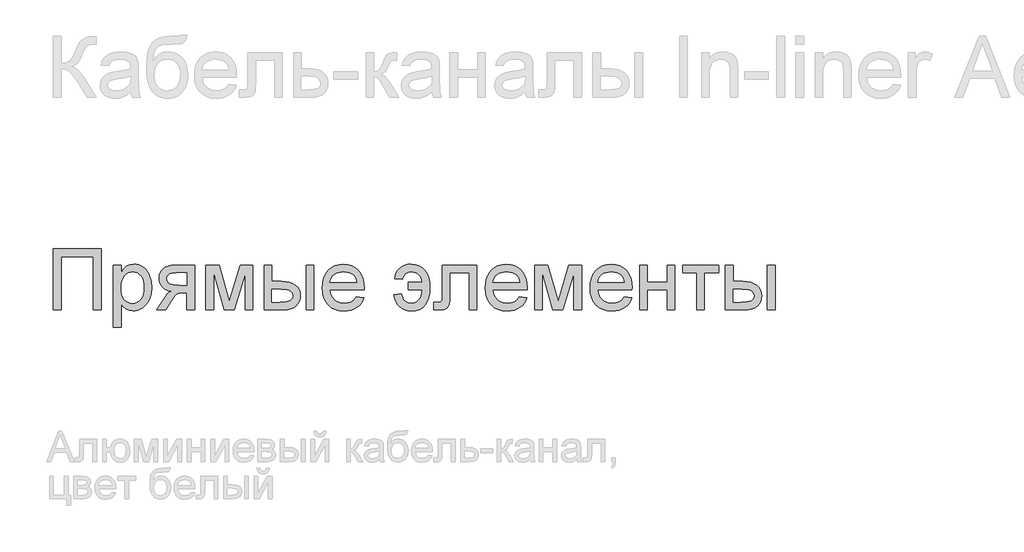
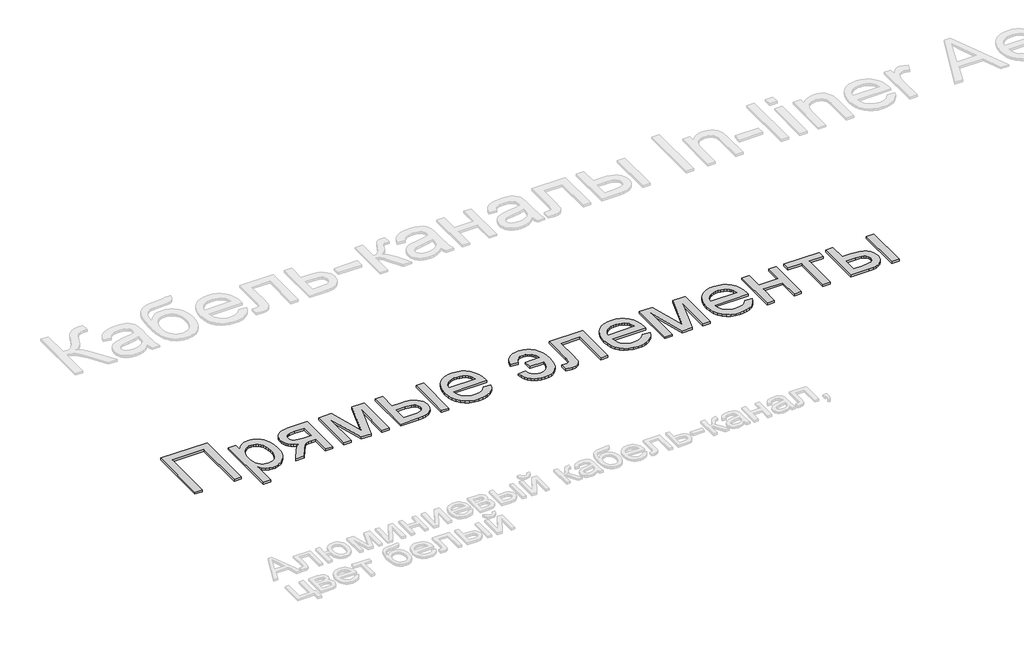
# One storey, part 90 of 168: 1 proxy.
"""IFC4 building model written with IfcOpenShell, lengths in millimetres."""

import ifcopenshell
import ifcopenshell.guid

model = None  # the IFC model being written
_history = None  # IfcOwnerHistory: only IFC2X3 demands one
_inside = {}  # id of a spatial element -> (the spatial element, [elements in it])
_under = {}  # id of a project, library or spatial element -> (it, [spatial elements below it])
_declared = {}  # id of a project -> (the project, [libraries it declares])
_typed = {}  # id of a type object -> (the type object, [elements of that type])
_made_of = {}  # id of a material, layer set ... -> (it, [elements and type objects made of it])


def new_model(schema):
    """Start an empty IFC model of exactly this schema.

    Asked for "IFC4X3", IfcOpenShell would pick the latest addendum, in which some entities
    have other attributes; the version numbers below select the first issue.
    IFC2X3 requires an IfcOwnerHistory on every rooted entity: one is made here for all.
    """
    global model, _history
    if schema == "IFC4X3":
        model = ifcopenshell.file(schema_version=(4, 3, 0, 0))
    else:
        model = ifcopenshell.file(schema=schema)
    _inside.clear()
    _under.clear()
    _declared.clear()
    _typed.clear()
    _made_of.clear()
    _history = None
    if model.schema == "IFC2X3":
        org = make("IfcOrganization", Name="unknown")
        user = make(
            "IfcPersonAndOrganization",
            ThePerson=make("IfcPerson", FamilyName="unknown"),
            TheOrganization=org,
        )
        app = make(
            "IfcApplication",
            ApplicationDeveloper=org,
            Version="unknown",
            ApplicationFullName="unknown",
            ApplicationIdentifier="unknown",
        )
        _history = make(
            "IfcOwnerHistory",
            OwningUser=user,
            OwningApplication=app,
            ChangeAction="ADDED",
            CreationDate=0,
        )
    return model


def make(cls, **values):
    """One entity of the class cls with the attributes given. An attribute that is None is left unset."""
    return model.create_entity(
        cls, **{name: value for name, value in values.items() if value is not None}
    )


def rooted(cls, **values):
    """An entity with a GlobalId (a new one), such as an element, a storey or a relation."""
    return make(cls, GlobalId=ifcopenshell.guid.new(), OwnerHistory=_history, **values)


def si_unit(unit_type, name, prefix=None):
    """IfcSIUnit, for example si_unit("LENGTHUNIT", "METRE", prefix="MILLI")."""
    return make("IfcSIUnit", UnitType=unit_type, Prefix=prefix, Name=name)


def assignment(units):
    """IfcUnitAssignment: the units of a project."""
    return None if units is None else make("IfcUnitAssignment", Units=units)


def point(xyz):
    """IfcCartesianPoint."""
    return None if xyz is None else make("IfcCartesianPoint", Coordinates=xyz)


def direction(xyz):
    """IfcDirection."""
    return None if xyz is None else make("IfcDirection", DirectionRatios=xyz)


def frame(location, z_axis=None, x_axis=None):
    """IfcAxis2Placement3D, a coordinate frame: its origin and axes. An axis left out is left unset."""
    return make(
        "IfcAxis2Placement3D",
        Location=point(location),
        Axis=direction(z_axis),
        RefDirection=direction(x_axis),
    )


def origin():
    """The frame at (0, 0, 0) with its axes left unset."""
    return frame((0.0, 0.0, 0.0))


def origin_with_axes():
    """The frame at (0, 0, 0) with the z axis (0, 0, 1) and the x axis (1, 0, 0) written out."""
    return frame((0.0, 0.0, 0.0), z_axis=(0.0, 0.0, 1.0), x_axis=(1.0, 0.0, 0.0))


def place(relative_to, where):
    """IfcLocalPlacement: puts the frame where relative to a parent placement (None: the world)."""
    return make(
        "IfcLocalPlacement", PlacementRelTo=relative_to, RelativePlacement=where
    )


def context(
    kind, dimensions, precision=None, world=None, true_north=None, identifier=None
):
    """IfcGeometricRepresentationContext, for example the 3D "Model" context."""
    return make(
        "IfcGeometricRepresentationContext",
        ContextIdentifier=identifier,
        ContextType=kind,
        CoordinateSpaceDimension=dimensions,
        Precision=precision,
        WorldCoordinateSystem=world,
        TrueNorth=true_north,
    )


def project(units=None, contexts=None):
    """IfcProject with its units and contexts."""
    return rooted(
        "IfcProject",
        Name="project",
        RepresentationContexts=contexts,
        UnitsInContext=assignment(units),
    )


def spatial(cls, under=None, at=None, **own):
    """A site, building, storey or space (cls), placed at a placement, below another one or the project."""
    s = rooted(cls, ObjectPlacement=at, **own)
    if under is not None:
        _under.setdefault(under.id(), (under, []))[1].append(s)
    return s


def polyline(points):
    """IfcPolyline through the points."""
    return make("IfcPolyline", Points=[point(p) for p in points])


def outline(outer, holes=None, kind="AREA"):
    """IfcArbitraryClosedProfileDef: a profile drawn as a closed curve; with holes, ...WithVoids."""
    if holes is None:
        return make("IfcArbitraryClosedProfileDef", ProfileType=kind, OuterCurve=outer)
    return make(
        "IfcArbitraryProfileDefWithVoids",
        ProfileType=kind,
        OuterCurve=outer,
        InnerCurves=holes,
    )


def extrude(swept, where, along, depth):
    """IfcExtrudedAreaSolid: the profile swept, set in the frame where, extruded along a direction by depth."""
    return make(
        "IfcExtrudedAreaSolid",
        SweptArea=swept,
        Position=where,
        ExtrudedDirection=direction(along),
        Depth=depth,
    )


def shape(context_of_items, identifier, shape_type, items):
    """IfcShapeRepresentation: the items that make up one representation, for example the "Body"."""
    return make(
        "IfcShapeRepresentation",
        ContextOfItems=context_of_items,
        RepresentationIdentifier=identifier,
        RepresentationType=shape_type,
        Items=items,
    )


def made_of(thing, what):
    """Note that an element or type object is made of a material, layer set ...; save() writes the relation."""
    if what is not None:
        _made_of.setdefault(what.id(), (what, []))[1].append(thing)
    return thing


def element(
    cls,
    number,
    at=None,
    inside=None,
    cuts=None,
    type_object=None,
    material=None,
    context=None,
    identifier="Body",
    shape_type=None,
    held_by="IfcProductDefinitionShape",
    body=None,
    shapes=None,
    **own,
):
    """One element of the class cls, such as IfcWall. Its Tag is "e" and its number.

    at: its placement. inside: the storey or other place that contains it. cuts: it is an
    opening in that element (IfcRelVoidsElement). A single representation is given by context,
    identifier, shape_type and body (its items); several are given by shapes. held_by: the class
    of the entity that holds the representations. save() writes the other relations.
    """
    e = rooted(cls, Tag="e%d" % number, ObjectPlacement=at, **own)
    if body is not None:
        shapes = [shape(context, identifier, shape_type, body)]
    if shapes is not None:
        e.Representation = make(held_by, Representations=shapes)
    if inside is not None:
        _inside.setdefault(inside.id(), (inside, []))[1].append(e)
    if cuts is not None:
        rooted(
            "IfcRelVoidsElement", RelatingBuildingElement=cuts, RelatedOpeningElement=e
        )
    if type_object is not None:
        _typed.setdefault(type_object.id(), (type_object, []))[1].append(e)
    return made_of(e, material)


def aggregate(whole, parts):
    """IfcRelAggregates: a whole, such as a stair, and the parts it consists of."""
    return rooted("IfcRelAggregates", RelatingObject=whole, RelatedObjects=parts)


def save(model, path):
    """Write the relations noted so far, then the file.

    IfcRelAggregates (storeys below a building ...), IfcRelContainedInSpatialStructure (elements
    in a storey), IfcRelDefinesByType, IfcRelAssociatesMaterial and IfcRelDeclares: one each for
    every whole, place, type object, material and project.
    """
    for whole, parts in _under.values():
        aggregate(whole, parts)
    for where, things in _inside.values():
        rooted(
            "IfcRelContainedInSpatialStructure",
            RelatedElements=things,
            RelatingStructure=where,
        )
    for kind, things in _typed.values():
        rooted("IfcRelDefinesByType", RelatedObjects=things, RelatingType=kind)
    for what, things in _made_of.values():
        rooted("IfcRelAssociatesMaterial", RelatedObjects=things, RelatingMaterial=what)
    for by, libraries in _declared.values():
        rooted("IfcRelDeclares", RelatingContext=by, RelatedDefinitions=libraries)
    model.write(path)


model = new_model("IFC4")

# Units and contexts
model_context = context("Model", 3, world=origin())
ifc_project = project(units=[si_unit("LENGTHUNIT", "METRE", prefix="MILLI")], contexts=[model_context])

# Site, building, storey
site = spatial("IfcSite", under=ifc_project)
building = spatial("IfcBuilding", under=site)
storey = spatial("IfcBuildingStorey", under=building, Name="Этаж 01", Elevation=0.0)

# Proxy
placement = place(None, origin())
element("IfcBuildingElementProxy", 1, Name="600 мм Arial", ObjectType="600 мм Arial", at=placement, inside=storey, context=model_context, shape_type="SweptSolid", body=[
    extrude(outline(polyline([(811.7799583, -4745.6678207), (1282.6689122, -4745.6678207), (1282.6689122, -5348.4056816), (1207.3266795, -5348.4056816), (1207.3266795, -4821.0100533), (887.1221909, -4821.0100533), (887.1221909, -5348.4056816), (811.7799583, -5348.4056816), (811.7799583, -4745.6678207)])), origin_with_axes(), (0.0, 0.0, 1.0), 20.0),
    extrude(outline(polyline([(1405.1000402, -5517.9257049), (1405.1000402, -4905.770065), (1480.4422728, -4905.770065), (1480.4422728, -4979.6407696), (1505.01679, -4943.202058), (1532.5343633, -4917.1744068), (1564.6136733, -4901.5578161), (1602.8734008, -4896.3522859), (1629.1493723, -4898.1733018), (1653.8250571, -4903.6363494), (1676.9004552, -4912.7414288), (1698.3755667, -4925.4885399), (1717.781342, -4941.546589), (1734.6487314, -4960.5844823), (1748.9777351, -4982.6022197), (1760.7683531, -5007.5998012), (1776.5504907, -5063.1131943), (1781.8112032, -5123.7033589), (1775.869909, -5188.1378904), (1768.4432912, -5217.8029748), (1758.0460263, -5245.7666049), (1744.8206686, -5271.2976154), (1728.9097723, -5293.6648407), (1710.3133375, -5312.8682808), (1689.031364, -5328.9079358), (1666.1077172, -5341.5584779), (1642.5862621, -5350.5945794), (1618.4669988, -5356.0162403), (1593.7499273, -5357.8234606), (1559.1138374, -5352.9858124), (1528.1933557, -5338.4728677), (1501.7242462, -5316.5654949), (1480.4422728, -5289.5445623), (1480.4422728, -5517.9257049), (1405.1000402, -5517.9257049)]), holes=[polyline([(1480.4422728, -5130.6195404), (1482.4794193, -5166.9294933), (1488.590859, -5198.1626747), (1498.7765917, -5224.3190846), (1513.0366175, -5245.3987229), (1530.2029111, -5261.6223189), (1549.1074472, -5273.2106018), (1569.7502256, -5280.1635715), (1592.1312465, -5282.481228), (1614.8341641, -5280.080798), (1635.8540216, -5272.879508), (1655.190819, -5260.8773579), (1672.8445562, -5244.0743477), (1687.5552375, -5222.2313543), (1698.062867, -5195.1092542), (1704.3674447, -5162.7080475), (1706.4689706, -5125.0277341), (1704.4180285, -5089.0304809), (1698.2652021, -5057.8524818), (1688.0104915, -5031.4937368), (1673.6538966, -5009.954246), (1656.4462163, -4993.2156152), (1637.6382493, -4981.2594504), (1617.2299956, -4974.0857515), (1595.2214553, -4971.6945185), (1573.2818928, -4974.2375028), (1552.6391143, -4981.8664557), (1533.2931199, -4994.5813771), (1515.2439095, -5012.3822672), (1500.0181934, -5035.0300025), (1489.1426819, -5062.2854598), (1482.6173751, -5094.1486391), (1480.4422728, -5130.6195404)])]), origin_with_axes(), (0.0, 0.0, 1.0), 20.0),
    extrude(outline(polyline([(2205.6112617, -4905.770065), (2205.6112617, -5348.4056816), (2130.269029, -5348.4056816), (2130.269029, -5178.8856582), (2089.2133984, -5178.8856582), (2056.4719008, -5181.2768912), (2033.2953351, -5188.4505901), (2010.964898, -5209.3094992), (1980.7617862, -5252.7563628), (1920.7234446, -5348.4056816), (1833.6089881, -5348.4056816), (1909.2455263, -5227.4460816), (1942.6492115, -5184.0360061), (1958.3577727, -5171.3808655), (1973.4041463, -5164.7589896), (1945.7394203, -5158.6429514), (1921.900667, -5148.976852), (1901.8878864, -5135.7606913), (1885.7010787, -5118.9944694), (1873.2114849, -5099.754241), (1864.2903465, -5079.1160611), (1858.9376635, -5057.0799296), (1857.1534358, -5033.6458465), (1859.590654, -5006.5145494), (1866.9023087, -4982.0687908), (1879.0883998, -4960.3085708), (1896.1489273, -4941.2338893), (1917.8263739, -4925.7184662), (1943.8632221, -4914.6360211), (1974.2594719, -4907.986554), (2009.0151234, -4905.770065), (2205.6112617, -4905.770065)]), holes=[polyline([(2130.269029, -4981.1122976), (2030.9408903, -4981.1122976), (1979.6397461, -4985.4716992), (1962.3079056, -4990.9209513), (1950.5218862, -4998.5499042), (1937.0022229, -5017.4774328), (1932.4956684, -5039.3848056), (1934.1557359, -5054.8404479), (1939.1359384, -5068.0979953), (1947.436276, -5079.1574478), (1959.0567485, -5088.0188054), (1974.8986669, -5094.8108267), (1995.8633421, -5099.6622705), (2053.1609629, -5103.5434256), (2130.269029, -5103.5434256), (2130.269029, -4981.1122976)])]), origin_with_axes(), (0.0, 0.0, 1.0), 20.0),
    extrude(outline(polyline([(2318.6246106, -4905.770065), (2448.2662257, -4905.770065), (2548.1829756, -5260.1140027), (2655.8988238, -4905.770065), (2780.0957853, -4905.770065), (2780.0957853, -5348.4056816), (2704.7535527, -5348.4056816), (2704.7535527, -4992.0016046), (2596.4490933, -5348.4056816), (2497.562413, -5348.4056816), (2393.9668432, -4974.9318801), (2393.9668432, -5348.4056816), (2318.6246106, -5348.4056816), (2318.6246106, -4905.770065)])), origin_with_axes(), (0.0, 0.0, 1.0), 20.0),
    extrude(outline(polyline([(3307.4914136, -4905.770065), (3382.8336462, -4905.770065), (3382.8336462, -5348.4056816), (3307.4914136, -5348.4056816), (3307.4914136, -4905.770065)])), origin_with_axes(), (0.0, 0.0, 1.0), 20.0),
    extrude(outline(polyline([(2893.1091342, -4905.770065), (2968.4513669, -4905.770065), (2968.4513669, -5065.8723093), (3061.599088, -5065.8723093), (3104.461939, -5068.2313526), (3142.1100627, -5075.3084824), (3174.5434591, -5087.1036989), (3201.7621282, -5103.617002), (3223.2970205, -5124.2781745), (3238.6790864, -5148.5169995), (3247.908326, -5176.3334768), (3250.9847392, -5207.7276066), (3248.4049667, -5235.737222), (3240.6656492, -5261.640713), (3227.7667867, -5285.4380796), (3209.7083793, -5307.1293217), (3185.9845891, -5325.1877291), (3156.0895785, -5338.0865916), (3120.0233474, -5345.8259091), (3077.7858958, -5348.4056816), (2893.1091342, -5348.4056816), (2893.1091342, -4905.770065)]), holes=[polyline([(2968.4513669, -5273.063449), (3045.8537386, -5273.063449), (3105.8552921, -5269.1087175), (3128.3236849, -5264.1653032), (3145.7704885, -5257.2445232), (3158.8394964, -5248.2268158), (3168.174502, -5236.9926193), (3173.7755054, -5223.5419339), (3175.6425065, -5207.8747594), (3170.1058825, -5183.2634539), (3153.4960104, -5161.521628), (3139.0796347, -5152.6372778), (3117.9770038, -5146.2913134), (3055.7129761, -5141.2145419), (2968.4513669, -5141.2145419), (2968.4513669, -5273.063449)])]), origin_with_axes(), (0.0, 0.0, 1.0), 20.0),
    extrude(outline(polyline([(3805.7507879, -5216.5567745), (3879.6214925, -5225.9745536), (3868.2953256, -5255.561463), (3853.0052302, -5281.6350994), (3833.7512062, -5304.1954628), (3810.5332538, -5323.2425531), (3783.5904962, -5338.3717002), (3753.1620567, -5349.1782338), (3719.2479352, -5355.6621539), (3681.8481319, -5357.8234606), (3635.0995274, -5354.0940569), (3593.4460885, -5342.9058457), (3556.8878152, -5324.2588271), (3525.4247076, -5298.153001), (3500.1236233, -5265.3149344), (3482.0514203, -5226.4711943), (3471.2080985, -5181.6217805), (3467.5936579, -5130.7666932), (3471.2448867, -5078.1871591), (3482.1985731, -5031.8432247), (3500.4547171, -4991.7348902), (3526.0133187, -4957.8621555), (3557.3936529, -4930.9515875), (3593.1149947, -4911.7297533), (3633.1773439, -4900.1966527), (3677.5807008, -4896.3522859), (3720.5539163, -4900.1874557), (3759.4160506, -4911.6929651), (3794.1671036, -4930.8688141), (3824.8070752, -4957.7150027), (3849.8184524, -4991.514161), (3867.6837218, -5031.5489191), (3878.4028834, -5077.8192771), (3881.9759373, -5130.3252348), (3881.5344789, -5150.632321), (3542.9358905, -5150.632321), (3547.2998907, -5180.697477), (3555.9773073, -5207.0286308), (3568.9681402, -5229.6257824), (3586.2723896, -5248.4889317), (3606.9335621, -5263.3605613), (3629.9951647, -5273.9831539), (3655.4571973, -5280.3567095), (3683.3196599, -5282.481228), (3723.4187974, -5278.5448907), (3757.1903645, -5266.7358786), (3784.6343614, -5246.3184279), (3805.7507879, -5216.5567745)]), holes=[polyline([(3542.9358905, -5075.2900883), (3806.6337047, -5075.2900883), (3796.4433734, -5035.4852565), (3787.6785849, -5019.8318776), (3776.4673811, -5007.01119), (3755.9211716, -4991.5601462), (3732.5422708, -4980.5236864), (3706.3306787, -4973.9018105), (3677.2863952, -4971.6945185), (3650.794293, -4973.4557536), (3626.5002857, -4978.7394587), (3604.4043734, -4987.545634), (3584.506556, -4999.8742793), (3567.8093119, -5015.1551777), (3555.3151197, -5032.818112), (3547.0239792, -5052.8630822), (3542.9358905, -5075.2900883)])]), origin_with_axes(), (0.0, 0.0, 1.0), 20.0),
    extrude(outline(polyline([(4315.1937748, -5075.2900883), (4456.4604609, -5075.2900883), (4452.0136873, -5053.3413288), (4444.853784, -5033.553876), (4434.980751, -5015.9277299), (4422.3945882, -5000.4628905), (4407.4631777, -4987.8767278), (4390.5544015, -4978.8866115), (4371.6682596, -4973.4925418), (4350.8047519, -4971.6945185), (4316.51815, -4976.403408), (4289.7363407, -4990.5300767), (4270.4593242, -5014.0745244), (4258.6871003, -5047.0367511), (4183.3448677, -5037.618972), (4190.0541156, -5007.9170995), (4200.911233, -4981.0571153), (4215.9162199, -4957.0390195), (4235.0690762, -4935.8628122), (4257.9375408, -4918.5769569), (4284.0893521, -4906.2299175), (4313.5245102, -4898.8216938), (4346.2430152, -4896.3522859), (4386.9537565, -4900.1966527), (4423.1487463, -4911.7297533), (4454.8279846, -4930.9515875), (4481.9914714, -4957.8621555), (4503.7838811, -4991.5049639), (4519.349888, -5030.9235197), (4528.6894922, -5076.1178228), (4531.8026936, -5127.0878733), (4529.8207293, -5177.5061007), (4521.5203918, -5222.8107684), (4506.901681, -5263.0018764), (4485.964597, -5298.0794246), (4459.3897213, -5326.2040032), (4427.8576358, -5345.536202), (4391.3683404, -5356.0760212), (4349.9218351, -5357.8234606), (4314.7523164, -5355.0689442), (4283.1144648, -5346.8053949), (4255.0082804, -5333.0328127), (4230.4337631, -5313.7511976), (4209.7955832, -5289.9722252), (4193.4984108, -5262.7075708), (4181.542246, -5231.9572345), (4173.9270887, -5197.7212163), (4249.2693213, -5188.3034373), (4261.1703038, -5229.5062207), (4270.3627552, -5245.6930285), (4281.7165132, -5258.9367803), (4295.231578, -5269.2374762), (4310.9079496, -5276.5951161), (4328.7456278, -5281.0097001), (4348.7446128, -5282.481228), (4371.3417643, -5280.4210889), (4391.3085596, -5274.2406713), (4408.6449986, -5263.9399755), (4423.3510814, -5249.5190013), (4435.4635961, -5230.9777487), (4445.0193309, -5208.3162178), (4452.0182859, -5181.5344086), (4456.4604609, -5150.632321), (4315.1937748, -5150.632321), (4315.1937748, -5075.2900883)])), origin_with_axes(), (0.0, 0.0, 1.0), 20.0),
    extrude(outline(polyline([(4654.2338216, -4905.770065), (4993.2738683, -4905.770065), (4993.2738683, -5347.9642232), (4917.9316357, -5347.9642232), (4917.9316357, -4981.1122976), (4729.5760542, -4981.1122976), (4729.5760542, -5192.2765628), (4728.3068613, -5253.5657032), (4724.4992826, -5289.6917151), (4714.9895331, -5311.7462407), (4696.6138274, -5330.8209222), (4668.7283722, -5344.0094917), (4630.6893739, -5348.4056816), (4569.4738099, -5344.5797088), (4569.4738099, -5273.063449), (4603.1718006, -5273.063449), (4623.6076455, -5271.9046207), (4637.2376734, -5268.4281358), (4645.7541416, -5262.4316593), (4650.8493072, -5253.712856), (4654.2338216, -5188.0091317), (4654.2338216, -4905.770065)])), origin_with_axes(), (0.0, 0.0, 1.0), 20.0),
    extrude(outline(polyline([(5416.19101, -5216.5567745), (5490.0617146, -5225.9745536), (5478.7355477, -5255.561463), (5463.4454522, -5281.6350994), (5444.1914283, -5304.1954628), (5420.9734759, -5323.2425531), (5394.0307183, -5338.3717002), (5363.6022788, -5349.1782338), (5329.6881573, -5355.6621539), (5292.288354, -5357.8234606), (5245.5397495, -5354.0940569), (5203.8863105, -5342.9058457), (5167.3280373, -5324.2588271), (5135.8649296, -5298.153001), (5110.5638454, -5265.3149344), (5092.4916424, -5226.4711943), (5081.6483206, -5181.6217805), (5078.03388, -5130.7666932), (5081.6851088, -5078.1871591), (5092.6387952, -5031.8432247), (5110.8949392, -4991.7348902), (5136.4535408, -4957.8621555), (5167.833875, -4930.9515875), (5203.5552168, -4911.7297533), (5243.617566, -4900.1966527), (5288.0209228, -4896.3522859), (5330.9941384, -4900.1874557), (5369.8562727, -4911.6929651), (5404.6073256, -4930.8688141), (5435.2472973, -4957.7150027), (5460.2586745, -4991.514161), (5478.1239439, -5031.5489191), (5488.8431055, -5077.8192771), (5492.4161594, -5130.3252348), (5491.974701, -5150.632321), (5153.3761126, -5150.632321), (5157.7401128, -5180.697477), (5166.4175293, -5207.0286308), (5179.4083623, -5229.6257824), (5196.7126116, -5248.4889317), (5217.3737842, -5263.3605613), (5240.4353868, -5273.9831539), (5265.8974194, -5280.3567095), (5293.759882, -5282.481228), (5333.8590194, -5278.5448907), (5367.6305866, -5266.7358786), (5395.0745834, -5246.3184279), (5416.19101, -5216.5567745)]), holes=[polyline([(5153.3761126, -5075.2900883), (5417.0739268, -5075.2900883), (5406.8835955, -5035.4852565), (5398.118807, -5019.8318776), (5386.9076031, -5007.01119), (5366.3613937, -4991.5601462), (5342.9824929, -4980.5236864), (5316.7709008, -4973.9018105), (5287.7266172, -4971.6945185), (5261.2345151, -4973.4557536), (5236.9405078, -4978.7394587), (5214.8445955, -4987.545634), (5194.9467781, -4999.8742793), (5178.249534, -5015.1551777), (5165.7553417, -5032.818112), (5157.4642013, -5052.8630822), (5153.3761126, -5075.2900883)])]), origin_with_axes(), (0.0, 0.0, 1.0), 20.0),
    extrude(outline(polyline([(5567.758392, -4905.770065), (5697.4000071, -4905.770065), (5797.316757, -5260.1140027), (5905.0326052, -4905.770065), (6029.2295667, -4905.770065), (6029.2295667, -5348.4056816), (5953.8873341, -5348.4056816), (5953.8873341, -4992.0016046), (5845.5828747, -5348.4056816), (5746.6961944, -5348.4056816), (5643.1006246, -4974.9318801), (5643.1006246, -5348.4056816), (5567.758392, -5348.4056816), (5567.758392, -4905.770065)])), origin_with_axes(), (0.0, 0.0, 1.0), 20.0),
    extrude(outline(polyline([(6452.1467084, -5216.5567745), (6526.017413, -5225.9745536), (6514.6912461, -5255.561463), (6499.4011507, -5281.6350994), (6480.1471267, -5304.1954628), (6456.9291743, -5323.2425531), (6429.9864167, -5338.3717002), (6399.5579772, -5349.1782338), (6365.6438557, -5355.6621539), (6328.2440524, -5357.8234606), (6281.4954479, -5354.0940569), (6239.842009, -5342.9058457), (6203.2837357, -5324.2588271), (6171.8206281, -5298.153001), (6146.5195438, -5265.3149344), (6128.4473408, -5226.4711943), (6117.604019, -5181.6217805), (6113.9895784, -5130.7666932), (6117.6408072, -5078.1871591), (6128.5944936, -5031.8432247), (6146.8506376, -4991.7348902), (6172.4092392, -4957.8621555), (6203.7895734, -4930.9515875), (6239.5109152, -4911.7297533), (6279.5732644, -4900.1966527), (6323.9766213, -4896.3522859), (6366.9498368, -4900.1874557), (6405.8119711, -4911.6929651), (6440.5630241, -4930.8688141), (6471.2029957, -4957.7150027), (6496.2143729, -4991.514161), (6514.0796423, -5031.5489191), (6524.7988039, -5077.8192771), (6528.3718578, -5130.3252348), (6527.9303994, -5150.632321), (6189.331811, -5150.632321), (6193.6958112, -5180.697477), (6202.3732278, -5207.0286308), (6215.3640607, -5229.6257824), (6232.6683101, -5248.4889317), (6253.3294826, -5263.3605613), (6276.3910852, -5273.9831539), (6301.8531178, -5280.3567095), (6329.7155804, -5282.481228), (6369.8147179, -5278.5448907), (6403.586285, -5266.7358786), (6431.0302819, -5246.3184279), (6452.1467084, -5216.5567745)]), holes=[polyline([(6189.331811, -5075.2900883), (6453.0296252, -5075.2900883), (6442.8392939, -5035.4852565), (6434.0745054, -5019.8318776), (6422.8633016, -5007.01119), (6402.3170921, -4991.5601462), (6378.9381913, -4980.5236864), (6352.7265992, -4973.9018105), (6323.6823157, -4971.6945185), (6297.1902135, -4973.4557536), (6272.8962062, -4978.7394587), (6250.8002939, -4987.545634), (6230.9024765, -4999.8742793), (6214.2052324, -5015.1551777), (6201.7110402, -5032.818112), (6193.4198997, -5052.8630822), (6189.331811, -5075.2900883)])]), origin_with_axes(), (0.0, 0.0, 1.0), 20.0),
    extrude(outline(polyline([(6603.7140904, -4905.770065), (6679.056323, -4905.770065), (6679.056323, -5075.2900883), (6876.8296836, -5075.2900883), (6876.8296836, -4905.770065), (6952.1719162, -4905.770065), (6952.1719162, -5348.4056816), (6876.8296836, -5348.4056816), (6876.8296836, -5150.632321), (6679.056323, -5150.632321), (6679.056323, -5348.4056816), (6603.7140904, -5348.4056816), (6603.7140904, -4905.770065)])), origin_with_axes(), (0.0, 0.0, 1.0), 20.0),
    extrude(outline(polyline([(7027.5141488, -4905.770065), (7385.3897537, -4905.770065), (7385.3897537, -4981.1122976), (7244.1230676, -4981.1122976), (7244.1230676, -5348.4056816), (7168.780835, -5348.4056816), (7168.780835, -4981.1122976), (7027.5141488, -4981.1122976), (7027.5141488, -4905.770065)])), origin_with_axes(), (0.0, 0.0, 1.0), 20.0),
    extrude(outline(polyline([(7865.6964866, -4905.770065), (7941.0387193, -4905.770065), (7941.0387193, -5348.4056816), (7865.6964866, -5348.4056816), (7865.6964866, -4905.770065)])), origin_with_axes(), (0.0, 0.0, 1.0), 20.0),
    extrude(outline(polyline([(7451.3142073, -4905.770065), (7526.6564399, -4905.770065), (7526.6564399, -5065.8723093), (7619.8041611, -5065.8723093), (7662.667012, -5068.2313526), (7700.3151357, -5075.3084824), (7732.7485321, -5087.1036989), (7759.9672012, -5103.617002), (7781.5020935, -5124.2781745), (7796.8841595, -5148.5169995), (7806.113399, -5176.3334768), (7809.1898122, -5207.7276066), (7806.6100397, -5235.737222), (7798.8707222, -5261.640713), (7785.9718598, -5285.4380796), (7767.9134523, -5307.1293217), (7744.1896622, -5325.1877291), (7714.2946515, -5338.0865916), (7678.2284204, -5345.8259091), (7635.9909689, -5348.4056816), (7451.3142073, -5348.4056816), (7451.3142073, -4905.770065)]), holes=[polyline([(7526.6564399, -5273.063449), (7604.0588117, -5273.063449), (7664.0603651, -5269.1087175), (7686.5287579, -5264.1653032), (7703.9755616, -5257.2445232), (7717.0445694, -5248.2268158), (7726.3795751, -5236.9926193), (7731.9805785, -5223.5419339), (7733.8475796, -5207.8747594), (7728.3109555, -5183.2634539), (7711.7010835, -5161.521628), (7697.2847078, -5152.6372778), (7676.1820768, -5146.2913134), (7613.9180491, -5141.2145419), (7526.6564399, -5141.2145419), (7526.6564399, -5273.063449)])]), origin_with_axes(), (0.0, 0.0, 1.0), 20.0),
])

save(model, "model.ifc")
